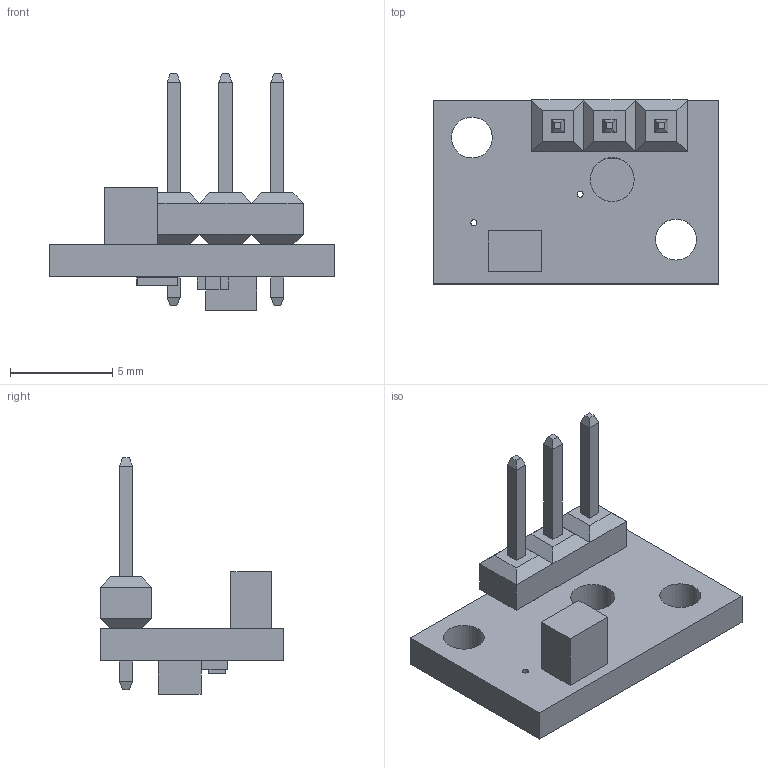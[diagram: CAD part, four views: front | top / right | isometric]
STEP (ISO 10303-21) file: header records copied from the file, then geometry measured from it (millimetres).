
FILE_DESCRIPTION(/* description */ (''),/* implementation_level */ '2;1');
FILE_NAME(/* name */ 'C:/Users/priba/Downloads/mrm-ref-a.step',/* time_stamp */ '2020-09-13T09:41:18+02:00',/* author */ (''),/* organization */ (''),/* preprocessor_version */ 'ST-DEVELOPER v18.1',/* originating_system */ 'Autodesk Translation Framework v9.3.0.1241',/* authorisation */ '');
FILE_SCHEMA (('AUTOMOTIVE_DESIGN { 1 0 10303 214 3 1 1 }'));
Length unit declared in the file: millimetre
Products named in the file (8): mrm-ref-a; PCB Component; Board; 3 pins; 33.2kOhm; ON_SEMICONDUCTOR_QSB363ZR; 330Ohm/0603; KINGBRIGHT_AM2520F3C03-P22
Assembly tree (7 placements, depth 3):
  mrm-ref-a
    PCB Component
      Board
      3 pins
      33.2kOhm
      ON_SEMICONDUCTOR_QSB363ZR
      330Ohm/0603
      KINGBRIGHT_AM2520F3C03-P22
Bounding box: 14 x 9.01 x 11.6 mm (x, y, z)
Volume: 256.1 mm3; surface area: 567.6 mm2
Topology: 6 solids, 6 shells, 379 faces, 915 edges, 560 vertices
Faces by surface type: plane 193, bspline 116, cylinder 54, sphere 16
Full cylindrical faces by diameter (mm): 0.3 x2, 1.016 x3, 2 x2, 2.15 x1
Entity records: 11606 total; most frequent: CARTESIAN_POINT 3000, ORIENTED_EDGE 1812, DIRECTION 1270, EDGE_CURVE 906, LINE 586, VECTOR 586, VERTEX_POINT 560, EDGE_LOOP 416
